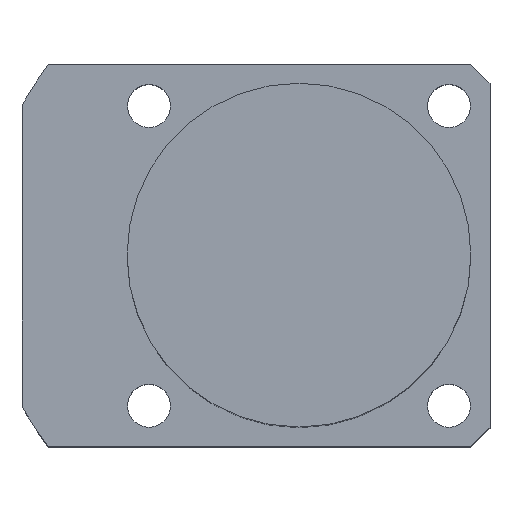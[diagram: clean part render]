
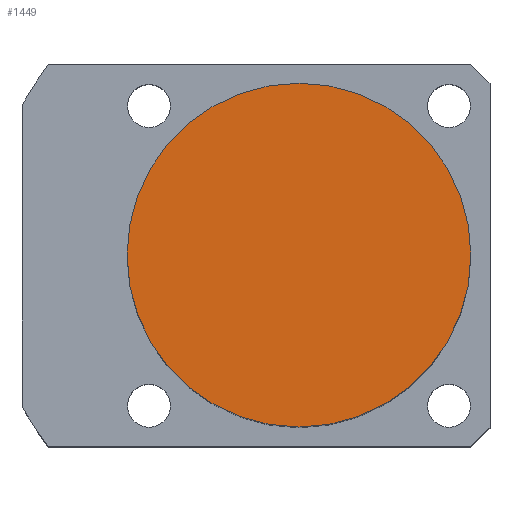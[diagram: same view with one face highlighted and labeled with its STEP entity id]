
A CAD part, top view. The second image highlights one B-rep face of the part: STEP entity #1449.
In plain terms, the highlighted planar face has unit normal (0, 0, 1).
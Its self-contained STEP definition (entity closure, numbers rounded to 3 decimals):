
#1391=CARTESIAN_POINT('',(-0.0,18.0,53.5));
#1392=VERTEX_POINT('',#1391);
#1399=CARTESIAN_POINT('',(18.0,0.0,53.5));
#1400=VERTEX_POINT('',#1399);
#1401=CARTESIAN_POINT('',(0.0,0.0,53.5));
#1402=DIRECTION('',(0.0,0.0,1.0));
#1403=DIRECTION('',(1.0,0.0,0.0));
#1404=AXIS2_PLACEMENT_3D('',#1401,#1402,#1403);
#1405=CIRCLE('',#1404,18.0);
#1406=EDGE_CURVE('no 1921',#1400,#1392,#1405,.T.);
#1408=CARTESIAN_POINT('',(-0.0,-18.0,53.5));
#1409=VERTEX_POINT('',#1408);
#1410=CARTESIAN_POINT('',(0.0,0.0,53.5));
#1411=DIRECTION('',(0.0,0.0,1.0));
#1412=DIRECTION('',(1.0,0.0,0.0));
#1413=AXIS2_PLACEMENT_3D('',#1410,#1411,#1412);
#1414=CIRCLE('',#1413,18.0);
#1415=EDGE_CURVE('no 1927',#1409,#1400,#1414,.T.);
#1433=ORIENTED_EDGE('',*,*,#1406,.T.);
#1434=CARTESIAN_POINT('',(0.0,0.0,53.5));
#1435=DIRECTION('',(0.0,0.0,1.0));
#1436=DIRECTION('',(1.0,0.0,0.0));
#1437=AXIS2_PLACEMENT_3D('',#1434,#1435,#1436);
#1438=CIRCLE('',#1437,18.0);
#1439=EDGE_CURVE('no 1944',#1392,#1409,#1438,.T.);
#1440=ORIENTED_EDGE('',*,*,#1439,.T.);
#1441=ORIENTED_EDGE('',*,*,#1415,.T.);
#1442=EDGE_LOOP('',(#1433,#1440,#1441));
#1443=FACE_OUTER_BOUND('',#1442,.T.);
#1444=CARTESIAN_POINT('',(0.0,0.0,53.5));
#1445=DIRECTION('',(0.0,0.0,1.0));
#1446=DIRECTION('',(1.0,0.0,0.0));
#1447=AXIS2_PLACEMENT_3D('',#1444,#1445,#1446);
#1448=PLANE('',#1447);
#1449=ADVANCED_FACE('no 1937',(#1443),#1448,.T.);
